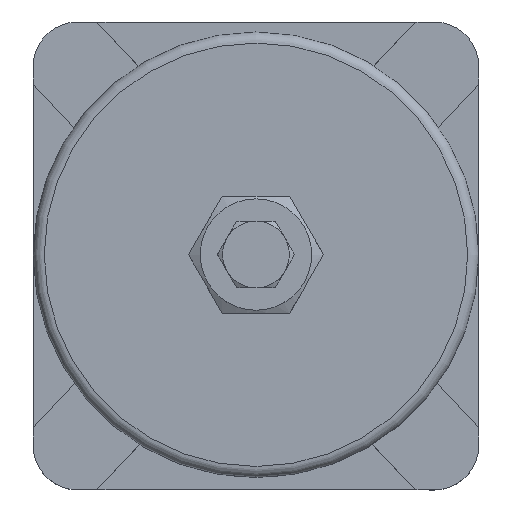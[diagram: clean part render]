
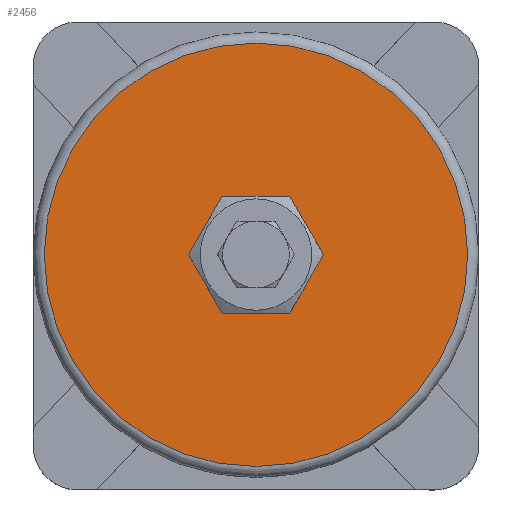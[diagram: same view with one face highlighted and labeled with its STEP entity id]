
A CAD part, top view. The second image highlights one B-rep face of the part: STEP entity #2456.
In plain terms, the highlighted planar face has unit normal (0, 0, 1).
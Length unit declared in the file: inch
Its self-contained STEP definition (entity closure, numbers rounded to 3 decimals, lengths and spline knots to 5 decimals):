
#123=FACE_BOUND('',#449,.T.);
#172=CIRCLE('',#2631,2.3757);
#173=CIRCLE('',#2633,0.38281);
#292=FACE_OUTER_BOUND('',#448,.T.);
#448=EDGE_LOOP('',(#1640));
#449=EDGE_LOOP('',(#1641));
#999=VERTEX_POINT('',#3558);
#1000=VERTEX_POINT('',#3561);
#1248=EDGE_CURVE('',#999,#999,#172,.T.);
#1249=EDGE_CURVE('',#1000,#1000,#173,.T.);
#1640=ORIENTED_EDGE('',*,*,#1248,.T.);
#1641=ORIENTED_EDGE('',*,*,#1249,.F.);
#2208=PLANE('',#2632);
#2456=ADVANCED_FACE('',(#292,#123),#2208,.T.);
#2631=AXIS2_PLACEMENT_3D('',#3559,#2925,#2926);
#2632=AXIS2_PLACEMENT_3D('',#3560,#2927,#2928);
#2633=AXIS2_PLACEMENT_3D('',#3562,#2929,#2930);
#2925=DIRECTION('center_axis',(0.,0.,
1.));
#2926=DIRECTION('ref_axis',(1.,0.,0.));
#2927=DIRECTION('center_axis',(0.,0.,
1.));
#2928=DIRECTION('ref_axis',(1.,0.,0.));
#2929=DIRECTION('center_axis',(0.,0.,
1.));
#2930=DIRECTION('ref_axis',(1.,0.,0.));
#3558=CARTESIAN_POINT('',(2.3757,0.,8.125));
#3559=CARTESIAN_POINT('Origin',(0.,0.,
8.125));
#3560=CARTESIAN_POINT('Origin',(1.37925,0.,
8.125));
#3561=CARTESIAN_POINT('',(0.38281,0.,8.125));
#3562=CARTESIAN_POINT('Origin',(0.,0.,
8.125));
